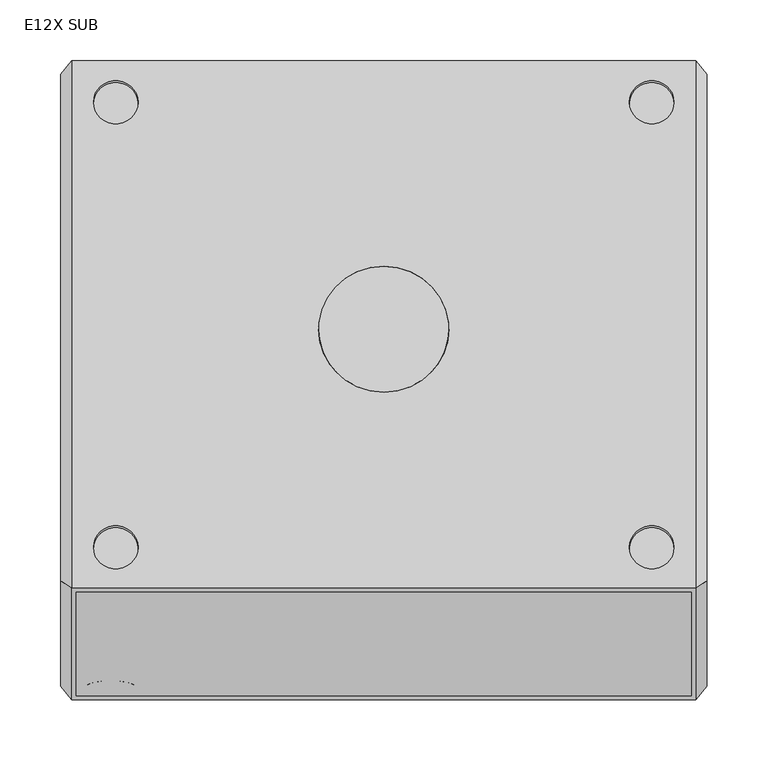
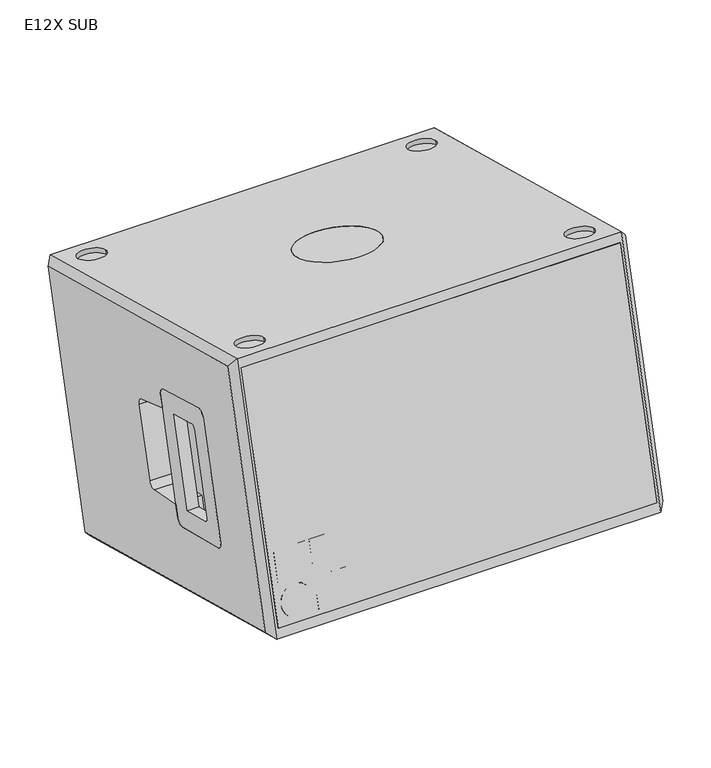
"""IFC4 building model written with IfcOpenShell, lengths in millimetres: proxy geometry, d&b E-Series E12X Subwoofer : E12X SUB."""

from ifc_helpers import new_model, si_unit, point, frame, frame_2d, origin, place, context, project, spatial, polyline, circle_curve, trimmed, segment, composite_curve, outline, extrude, faceted_brep, source, transform, mapped, element, save
from ifc_brep_helpers import plane_surface, revolved_surface, advanced_brep


def e12x_sub_99dfb99e(model_context):
    return source(origin(), model_context, "Body", "SolidModel", [
        extrude(outline(polyline([(0.0, -505.0), (0.0, 0.0), (15.0, 0.0), (15.0, -505.0), (0.0, -505.0)])), frame((-252.5, -258.684299, -99.9534065), z_axis=(0.0, 0.2588190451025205, 0.9659258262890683), x_axis=(0.0, 0.9659258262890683, -0.2588190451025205)), (0.0, 0.0, 1.0), 326.9692499),
        extrude(outline(composite_curve([segment(trimmed(circle_curve(frame_2d((0.0, -18.25)), 18.25), [point((0.0, -36.5))], [point((0.0, 0.0))], False, "CARTESIAN"), True, "CONTINUOUS"), segment(trimmed(circle_curve(frame_2d((0.0, -18.25)), 18.25), [point((0.0, 0.0))], [point((0.0, -36.5))], False, "CARTESIAN"), True, "CONTINUOUS")], self_intersect=False)), frame((-238.25, 135.454915, -224.7152999), z_axis=(0.0, 0.2588190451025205, 0.9659258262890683), x_axis=(0.0, 0.9659258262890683, -0.2588190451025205)), (0.0, 0.0, 1.0), 6.0),
        extrude(outline(composite_curve([segment(trimmed(circle_curve(frame_2d((0.0, -458.25)), 18.25), [point((0.0, -476.5))], [point((0.0, -440.0))], False, "CARTESIAN"), True, "CONTINUOUS"), segment(trimmed(circle_curve(frame_2d((0.0, -458.25)), 18.25), [point((0.0, -440.0))], [point((0.0, -476.5))], False, "CARTESIAN"), True, "CONTINUOUS")], self_intersect=False)), frame((-238.25, 135.454915, -224.7152999), z_axis=(0.0, 0.2588190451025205, 0.9659258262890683), x_axis=(0.0, 0.9659258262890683, -0.2588190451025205)), (0.0, 0.0, 1.0), 6.0),
        extrude(outline(composite_curve([segment(trimmed(circle_curve(frame_2d((-378.0, -18.25)), 18.25), [point((-378.0, -36.5))], [point((-378.0, 0.0))], False, "CARTESIAN"), True, "CONTINUOUS"), segment(trimmed(circle_curve(frame_2d((-378.0, -18.25)), 18.25), [point((-378.0, 0.0))], [point((-378.0, -36.5))], False, "CARTESIAN"), True, "CONTINUOUS")], self_intersect=False)), frame((-238.25, 135.454915, -224.7152999), z_axis=(0.0, 0.2588190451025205, 0.9659258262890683), x_axis=(0.0, 0.9659258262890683, -0.2588190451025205)), (0.0, 0.0, 1.0), 6.0),
        extrude(outline(composite_curve([segment(trimmed(circle_curve(frame_2d((-378.0, -458.25)), 18.25), [point((-378.0, -476.5))], [point((-378.0, -440.0))], False, "CARTESIAN"), True, "CONTINUOUS"), segment(trimmed(circle_curve(frame_2d((-378.0, -458.25)), 18.25), [point((-378.0, -440.0))], [point((-378.0, -476.5))], False, "CARTESIAN"), True, "CONTINUOUS")], self_intersect=False)), frame((-238.25, 135.454915, -224.7152999), z_axis=(0.0, 0.2588190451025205, 0.9659258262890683), x_axis=(0.0, 0.9659258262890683, -0.2588190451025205)), (0.0, 0.0, 1.0), 6.0),
        extrude(outline(polyline([(0.0, -41.5), (0.0, 0.0), (5.0000001, 0.0), (5.0000001, -41.5), (0.0, -41.5)])), frame((-244.9285714, -244.8374801, -48.2763748), z_axis=(0.0, 0.2588190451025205, 0.9659258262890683), x_axis=(0.0, 0.9659258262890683, -0.2588190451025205)), (0.0, 0.0, 1.0), 41.5),
        extrude(outline(polyline([(0.0, -41.5), (0.0, 0.0), (5.0000001, 0.0), (5.0000001, -41.5), (0.0, -41.5)])), frame((-197.5, -244.8374801, -48.2763748), z_axis=(0.0, 0.2588190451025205, 0.9659258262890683), x_axis=(0.0, 0.9659258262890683, -0.2588190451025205)), (0.0, 0.0, 1.0), 41.5),
        extrude(outline(polyline([(0.0, -41.5), (0.0, 0.0), (5.0, 0.0), (5.0, -41.5), (0.0, -41.5)])), frame((-197.5, -257.1128976, -94.0888568), z_axis=(0.0, 0.2588190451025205, 0.9659258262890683), x_axis=(0.0, 0.9659258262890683, -0.2588190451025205)), (0.0, 0.0, 1.0), 41.5),
        extrude(outline(composite_curve([segment(trimmed(circle_curve(frame_2d((17.5, -68.1785715)), 20.75), [point((-3.25, -68.1785715))], [point((38.25, -68.1785715))], False, "CARTESIAN"), True, "CONTINUOUS"), segment(trimmed(circle_curve(frame_2d((17.5, -68.1785715)), 20.75), [point((38.25, -68.1785715))], [point((-3.25, -68.1785715))], False, "CARTESIAN"), True, "CONTINUOUS")], self_intersect=False)), frame((-241.6785714, -229.2668605, -9.4845482), z_axis=(0.0, -0.9659258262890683, 0.2588190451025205), x_axis=(1.0, 0.0, 0.0)), (0.0, 0.0, 1.0), 5.0),
        advanced_brep(
        [(-265.0, -164.4512721, 216.9557077), (-265.0, 250.8968332, 105.6635183), (-265.0, 164.4512721, -216.9557077), (-265.0, -250.8968332, -105.6635183), (-265.0, -14.9698297, 93.4155769), (-265.0, -96.1612953, 116.8451239), (-265.0, -107.1668059, 110.4765742), (-265.0, -148.048673, -42.0966307), (-265.0, -141.6849683, -53.1431861), (-265.0, -59.749848, -73.4210995), (-265.0, -49.0108434, -66.9657863), (-265.0, -44.5065701, -50.1556096), (-265.0, 5.0056737, -60.3901946), (-265.0, 15.4084054, -53.8829808), (-265.0, 40.2856866, 38.9602968), (-265.0, 34.530732, 49.7961757), (-265.0, -13.4573824, 65.6862696), (-265.0, -8.9538545, 82.4936647), (-256.0, -261.919537, -112.0274793), (-256.0, -170.8152332, 227.9784115), (-256.0, 170.8152332, -227.9784115), (-256.0, 261.919537, 112.0274793), (-230.0, -14.9698297, 93.4155769), (-230.0, -8.9538545, 82.4936647), (-230.0, -13.4573824, 65.6862696), (-230.0, 34.530732, 49.7961756), (-230.0, 40.2856866, 38.9602968), (-230.0, 15.4084054, -53.8829808), (-230.0, 5.0056737, -60.3901943), (-230.0, -44.5065701, -50.1556096), (-230.0, -49.0108434, -66.9657863), (-230.0, -59.749848, -73.4210995), (-230.0, -141.6849683, -53.143186), (-230.0, -148.048673, -42.0966307), (-230.0, -107.1668059, 110.4765742), (-230.0, -96.1612953, 116.8451239), (256.0, 261.919537, 112.0274793), (256.0, -170.8152332, 227.9784115), (0.0, 93.5664126, 157.1375631), (0.0, -9.7065524, 184.8094706), (-238.25, 228.1121331, 121.0861459), (-201.75, 228.1121331, 121.0861459), (201.75, 228.1121331, 121.0861459), (238.25, 228.1121331, 121.0861459), (-238.25, -137.0078292, 218.919745), (-201.75, -137.0078292, 218.919745), (201.75, -137.0078292, 218.919745), (238.25, -137.0078292, 218.919745), (256.0, 170.8152332, -227.9784115), (256.0, -261.919537, -112.0274793), (124.0, 207.5675376, -90.8169442), (116.0, 209.6380899, -83.0895376), (64.0, 209.6380899, -83.0895376), (56.0, 207.5675376, -90.8169442), (56.0, 183.7561854, -179.6821202), (64.0, 181.685633, -187.4095268), (116.0, 181.685633, -187.4095268), (124.0, 183.7561854, -179.6821202), (-64.0, 209.6380899, -83.0895376), (-116.0, 209.6380899, -83.0895376), (-124.0, 207.5675376, -90.8169442), (-124.0, 183.7561854, -179.6821202), (-116.0, 181.685633, -187.4095268), (-64.0, 181.685633, -187.4095268), (-56.0, 183.7561854, -179.6821202), (-56.0, 207.5675376, -90.8169442), (-252.5, -174.0584299, 215.8746363), (252.5, -174.0584299, 215.8746363), (252.5, -258.684299, -99.9534065), (-252.5, -258.684299, -99.9534065), (252.5, -159.5695425, 211.9923507), (-252.5, -159.5695425, 211.9923507), (-252.5, -244.1954116, -103.8356922), (252.5, -244.1954116, -103.8356922), (0.0, -11.0006476, 179.9798415), (0.0, 92.2723174, 152.3079339), (-201.75, 226.5592188, 115.2905909), (-238.25, 226.5592188, 115.2905909), (238.25, 226.5592188, 115.2905909), (201.75, 226.5592188, 115.2905909), (-201.75, -138.5607435, 213.12419), (-238.25, -138.5607435, 213.12419), (238.25, -138.5607435, 213.12419), (201.75, -138.5607435, 213.12419), (116.0, 198.04698, -79.983709), (124.0, 195.9764276, -87.7111157), (124.0, 172.1650755, -176.5762917), (116.0, 170.0945231, -184.3036983), (64.0, 170.0945231, -184.3036983), (56.0, 172.1650755, -176.5762917), (56.0, 195.9764276, -87.7111157), (64.0, 198.04698, -79.983709), (-116.0, 198.04698, -79.983709), (-64.0, 198.04698, -79.983709), (-56.0, 195.9764276, -87.7111157), (-56.0, 172.1650755, -176.5762917), (-64.0, 170.0945231, -184.3036983), (-116.0, 170.0945231, -184.3036983), (-124.0, 172.1650755, -176.5762917), (-124.0, 195.9764276, -87.7111157)],
        [
            (0, 1),
            (1, 2),
            (2, 3),
            (3, 0),
            (4, 5, circle_curve(frame((-265.0, -610.235582, -1816.9926737), z_axis=(1.0, 0.0, 0.0), x_axis=(0.0, 0.9659258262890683, -0.2588190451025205)), 2001.0)),
            (5, 6, circle_curve(frame((-265.0, -98.4734735, 108.1472028), z_axis=(1.0, 0.0, 0.0), x_axis=(0.0, 0.9659258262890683, -0.2588190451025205)), 9.0)),
            (6, 7),
            (7, 8, circle_curve(frame((-265.0, -139.3330069, -44.4319864), z_axis=(1.0, 0.0, 0.0), x_axis=(0.0, 0.9659258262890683, -0.2588190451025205)), 9.0231215)),
            (8, 9, circle_curve(frame((-265.0, 379.8983479, 1878.69821), z_axis=(1.0, 0.0, 0.0), x_axis=(0.0, 0.9659258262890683, -0.2588190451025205)), 2001.0148263)),
            (9, 10, circle_curve(frame((-265.0, -57.7239032, -64.6311289), z_axis=(1.0, 0.0, 0.0), x_axis=(0.0, 0.9659258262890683, -0.2588190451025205)), 9.0204232)),
            (10, 11),
            (11, 12, circle_curve(frame((-265.0, 380.0134712, 1878.6803221), z_axis=(1.0, 0.0, 0.0), x_axis=(0.0, 0.9659258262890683, -0.2588190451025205)), 1975.0000802)),
            (12, 13, circle_curve(frame((-265.0, 6.7146526, -51.5534967), z_axis=(1.0, 0.0, 0.0), x_axis=(0.0, 0.9659258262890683, -0.2588190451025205)), 9.0004352)),
            (13, 14),
            (14, 15, circle_curve(frame((-265.0, 31.5926582, 41.2895867), z_axis=(1.0, 0.0, 0.0), x_axis=(0.0, 0.9659258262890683, -0.2588190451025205)), 8.9996852)),
            (15, 16, circle_curve(frame((-265.0, -610.2357588, -1816.9927178), z_axis=(1.0, 0.0, 0.0), x_axis=(0.0, 0.9659258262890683, -0.2588190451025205)), 1974.9998987)),
            (16, 17),
            (17, 4, circle_curve(frame((-265.0, -17.6471869, 84.8230361), z_axis=(1.0, 0.0, 0.0), x_axis=(0.0, 0.9659258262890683, -0.2588190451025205)), 9.0)),
            (3, 18),
            (18, 19),
            (19, 0),
            (2, 20),
            (20, 18),
            (1, 21),
            (21, 20),
            (19, 21),
            (22, 23, circle_curve(frame((-230.0, -17.6471869, 84.8230361), z_axis=(-1.0, 0.0, 0.0), x_axis=(0.0, 0.9659258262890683, -0.2588190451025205)), 9.0)),
            (23, 24),
            (24, 25, circle_curve(frame((-230.0, -610.2357588, -1816.9927178), z_axis=(-1.0, 0.0, 0.0), x_axis=(0.0, 0.9659258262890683, -0.2588190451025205)), 1974.9998987)),
            (25, 26, circle_curve(frame((-230.0, 31.5926582, 41.2895867), z_axis=(-1.0, 0.0, 0.0), x_axis=(0.0, 0.9659258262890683, -0.2588190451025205)), 8.9996852)),
            (26, 27),
            (27, 28, circle_curve(frame((-230.0, 6.7146526, -51.5534967), z_axis=(-1.0, 0.0, 0.0), x_axis=(0.0, 0.9659258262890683, -0.2588190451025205)), 9.0004352)),
            (28, 29, circle_curve(frame((-230.0, 380.0134712, 1878.6803221), z_axis=(-1.0, 0.0, 0.0), x_axis=(0.0, 0.9659258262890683, -0.2588190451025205)), 1975.0000802)),
            (29, 30),
            (30, 31, circle_curve(frame((-230.0, -57.7239032, -64.6311289), z_axis=(-1.0, 0.0, 0.0), x_axis=(0.0, 0.9659258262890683, -0.2588190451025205)), 9.0204232)),
            (31, 32, circle_curve(frame((-230.0, 379.8983479, 1878.69821), z_axis=(-1.0, 0.0, 0.0), x_axis=(0.0, 0.9659258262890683, -0.2588190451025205)), 2001.0148263)),
            (32, 33, circle_curve(frame((-230.0, -139.3330069, -44.4319864), z_axis=(-1.0, 0.0, 0.0), x_axis=(0.0, 0.9659258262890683, -0.2588190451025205)), 9.0231215)),
            (33, 34),
            (34, 35, circle_curve(frame((-230.0, -98.4734735, 108.1472028), z_axis=(-1.0, 0.0, 0.0), x_axis=(0.0, 0.9659258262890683, -0.2588190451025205)), 9.0)),
            (35, 22, circle_curve(frame((-230.0, -610.235582, -1816.9926737), z_axis=(-1.0, 0.0, 0.0), x_axis=(0.0, 0.9659258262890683, -0.2588190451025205)), 2001.0)),
            (35, 5),
            (4, 22),
            (34, 6),
            (33, 7),
            (32, 8),
            (31, 9),
            (30, 10),
            (29, 11),
            (28, 12),
            (27, 13),
            (26, 14),
            (25, 15),
            (24, 16),
            (23, 17),
            (36, 21),
            (19, 37),
            (37, 36),
            (38, 39, circle_curve(frame((0.0, 41.9299301, 170.9735168), z_axis=(0.0, -0.2588190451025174, -0.9659258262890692), x_axis=(0.0, 0.9659258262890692, -0.2588190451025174)), 53.4580204)),
            (39, 38, circle_curve(frame((0.0, 41.9299301, 170.9735168), z_axis=(0.0, -0.2588190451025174, -0.9659258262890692), x_axis=(0.0, 0.9659258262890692, -0.2588190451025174)), 53.4580204)),
            (40, 41, circle_curve(frame((-220.0, 228.1121331, 121.0861459), z_axis=(0.0, -0.2588190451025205, -0.9659258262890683), x_axis=(-1.0, 0.0, 0.0)), 18.25)),
            (41, 40, circle_curve(frame((-220.0, 228.1121331, 121.0861459), z_axis=(0.0, -0.2588190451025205, -0.9659258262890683), x_axis=(-1.0, 0.0, 0.0)), 18.25)),
            (42, 43, circle_curve(frame((220.0, 228.1121331, 121.0861459), z_axis=(0.0, -0.2588190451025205, -0.9659258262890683), x_axis=(-1.0, 0.0, 0.0)), 18.25)),
            (43, 42, circle_curve(frame((220.0, 228.1121331, 121.0861459), z_axis=(0.0, -0.2588190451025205, -0.9659258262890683), x_axis=(-1.0, 0.0, 0.0)), 18.25)),
            (44, 45, circle_curve(frame((-220.0, -137.0078292, 218.919745), z_axis=(0.0, -0.2588190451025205, -0.9659258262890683), x_axis=(-1.0, 0.0, 0.0)), 18.25)),
            (45, 44, circle_curve(frame((-220.0, -137.0078292, 218.919745), z_axis=(0.0, -0.2588190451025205, -0.9659258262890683), x_axis=(-1.0, 0.0, 0.0)), 18.25)),
            (46, 47, circle_curve(frame((220.0, -137.0078292, 218.919745), z_axis=(0.0, -0.2588190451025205, -0.9659258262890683), x_axis=(-1.0, 0.0, 0.0)), 18.25)),
            (47, 46, circle_curve(frame((220.0, -137.0078292, 218.919745), z_axis=(0.0, -0.2588190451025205, -0.9659258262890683), x_axis=(-1.0, 0.0, 0.0)), 18.25)),
            (48, 49),
            (49, 18),
            (20, 48),
            (36, 48),
            (50, 51, circle_curve(frame((116.0, 207.5675376, -90.8169442), z_axis=(0.0, -0.9659258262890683, 0.2588190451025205), x_axis=(-1.0, 0.0, 0.0)), 8.0)),
            (51, 52),
            (52, 53, circle_curve(frame((64.0, 207.5675376, -90.8169442), z_axis=(0.0, -0.9659258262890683, 0.2588190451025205), x_axis=(-1.0, 0.0, 0.0)), 8.0)),
            (53, 54),
            (54, 55, circle_curve(frame((64.0, 183.7561854, -179.6821202), z_axis=(0.0, -0.9659258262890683, 0.2588190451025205), x_axis=(-1.0, 0.0, 0.0)), 8.0)),
            (55, 56),
            (56, 57, circle_curve(frame((116.0, 183.7561854, -179.6821202), z_axis=(0.0, -0.9659258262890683, 0.2588190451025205), x_axis=(-1.0, 0.0, 0.0)), 8.0)),
            (57, 50),
            (58, 59),
            (59, 60, circle_curve(frame((-116.0, 207.5675376, -90.8169442), z_axis=(0.0, -0.9659258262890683, 0.2588190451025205), x_axis=(-1.0, 0.0, 0.0)), 8.0)),
            (60, 61),
            (61, 62, circle_curve(frame((-116.0, 183.7561854, -179.6821202), z_axis=(0.0, -0.9659258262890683, 0.2588190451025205), x_axis=(-1.0, 0.0, 0.0)), 8.0)),
            (62, 63),
            (63, 64, circle_curve(frame((-64.0, 183.7561854, -179.6821202), z_axis=(0.0, -0.9659258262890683, 0.2588190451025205), x_axis=(-1.0, 0.0, 0.0)), 8.0)),
            (64, 65),
            (65, 58, circle_curve(frame((-64.0, 207.5675376, -90.8169442), z_axis=(0.0, -0.9659258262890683, 0.2588190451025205), x_axis=(-1.0, 0.0, 0.0)), 8.0)),
            (49, 37),
            (66, 67),
            (67, 68),
            (68, 69),
            (69, 66),
            (70, 71),
            (71, 72),
            (72, 73),
            (73, 70),
            (70, 67),
            (66, 71),
            (69, 72),
            (68, 73),
            (74, 75, circle_curve(frame((0.0, 40.6358349, 166.1438877), z_axis=(0.0, 0.2588190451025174, 0.9659258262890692), x_axis=(0.0, 0.9659258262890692, -0.2588190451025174)), 53.4580204)),
            (75, 74, circle_curve(frame((0.0, 40.6358349, 166.1438877), z_axis=(0.0, 0.2588190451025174, 0.9659258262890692), x_axis=(0.0, 0.9659258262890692, -0.2588190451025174)), 53.4580204)),
            (74, 39),
            (38, 75),
            (76, 77, circle_curve(frame((-220.0, 226.5592188, 115.2905909), z_axis=(0.0, 0.2588190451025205, 0.9659258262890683), x_axis=(-1.0, 0.0, 0.0)), 18.25)),
            (77, 76, circle_curve(frame((-220.0, 226.5592188, 115.2905909), z_axis=(0.0, 0.2588190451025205, 0.9659258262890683), x_axis=(-1.0, 0.0, 0.0)), 18.25)),
            (78, 79, circle_curve(frame((220.0, 226.5592188, 115.2905909), z_axis=(0.0, 0.2588190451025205, 0.9659258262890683), x_axis=(-1.0, 0.0, 0.0)), 18.25)),
            (79, 78, circle_curve(frame((220.0, 226.5592188, 115.2905909), z_axis=(0.0, 0.2588190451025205, 0.9659258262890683), x_axis=(-1.0, 0.0, 0.0)), 18.25)),
            (80, 81, circle_curve(frame((-220.0, -138.5607435, 213.12419), z_axis=(0.0, 0.2588190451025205, 0.9659258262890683), x_axis=(-1.0, 0.0, 0.0)), 18.25)),
            (81, 80, circle_curve(frame((-220.0, -138.5607435, 213.12419), z_axis=(0.0, 0.2588190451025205, 0.9659258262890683), x_axis=(-1.0, 0.0, 0.0)), 18.25)),
            (82, 83, circle_curve(frame((220.0, -138.5607435, 213.12419), z_axis=(0.0, 0.2588190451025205, 0.9659258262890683), x_axis=(-1.0, 0.0, 0.0)), 18.25)),
            (83, 82, circle_curve(frame((220.0, -138.5607435, 213.12419), z_axis=(0.0, 0.2588190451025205, 0.9659258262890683), x_axis=(-1.0, 0.0, 0.0)), 18.25)),
            (76, 41),
            (40, 77),
            (78, 43),
            (42, 79),
            (80, 45),
            (44, 81),
            (82, 47),
            (46, 83),
            (84, 85, circle_curve(frame((116.0, 195.9764276, -87.7111157), z_axis=(0.0, 0.9659258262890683, -0.2588190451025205), x_axis=(-1.0, 0.0, 0.0)), 8.0)),
            (85, 86),
            (86, 87, circle_curve(frame((116.0, 172.1650755, -176.5762917), z_axis=(0.0, 0.9659258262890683, -0.2588190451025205), x_axis=(-1.0, 0.0, 0.0)), 8.0)),
            (87, 88),
            (88, 89, circle_curve(frame((64.0, 172.1650755, -176.5762917), z_axis=(0.0, 0.9659258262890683, -0.2588190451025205), x_axis=(-1.0, 0.0, 0.0)), 8.0)),
            (89, 90),
            (90, 91, circle_curve(frame((64.0, 195.9764276, -87.7111157), z_axis=(0.0, 0.9659258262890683, -0.2588190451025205), x_axis=(-1.0, 0.0, 0.0)), 8.0)),
            (91, 84),
            (92, 93),
            (93, 94, circle_curve(frame((-64.0, 195.9764276, -87.7111157), z_axis=(0.0, 0.9659258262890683, -0.2588190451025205), x_axis=(-1.0, 0.0, 0.0)), 8.0)),
            (94, 95),
            (95, 96, circle_curve(frame((-64.0, 172.1650755, -176.5762917), z_axis=(0.0, 0.9659258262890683, -0.2588190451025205), x_axis=(-1.0, 0.0, 0.0)), 8.0)),
            (96, 97),
            (97, 98, circle_curve(frame((-116.0, 172.1650755, -176.5762917), z_axis=(0.0, 0.9659258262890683, -0.2588190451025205), x_axis=(-1.0, 0.0, 0.0)), 8.0)),
            (98, 99),
            (99, 92, circle_curve(frame((-116.0, 195.9764276, -87.7111157), z_axis=(0.0, 0.9659258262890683, -0.2588190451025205), x_axis=(-1.0, 0.0, 0.0)), 8.0)),
            (84, 51),
            (50, 85),
            (57, 86),
            (56, 87),
            (55, 88),
            (54, 89),
            (53, 90),
            (52, 91),
            (92, 59),
            (58, 93),
            (65, 94),
            (64, 95),
            (63, 96),
            (62, 97),
            (61, 98),
            (60, 99),
        ],
        [
            plane_surface(frame((-265.0, 0.0, 0.0), z_axis=(-1.0000000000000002, 0.0, 0.0), x_axis=(0.0, 0.25881904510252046, 0.9659258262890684))),
            plane_surface(frame((-265.0, -207.6740527, 55.6460947), z_axis=(-0.7071067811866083, -0.6830127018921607, 0.18301270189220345), x_axis=(0.0, -0.2588190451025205, -0.9659258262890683))),
            plane_surface(frame((-265.0, -43.2227805, -161.309613), z_axis=(-0.7071067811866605, -0.1830127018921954, -0.6830127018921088), x_axis=(0.0, 0.9659258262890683, -0.2588190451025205))),
            plane_surface(frame((-265.0, 207.6740527, -55.6460947), z_axis=(-0.7071067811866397, 0.6830127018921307, -0.18301270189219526), x_axis=(0.0, 0.25881904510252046, 0.9659258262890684))),
            plane_surface(frame((-265.0, 43.2227805, 161.309613), z_axis=(-0.7071067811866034, 0.18301270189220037, 0.6830127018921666), x_axis=(0.0, -0.9659258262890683, 0.2588190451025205))),
            plane_surface(frame((-230.0, 1322.5819964, -2334.889583), z_axis=(-1.0, 0.0, 0.0), x_axis=(0.0, 0.2588190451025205, 0.9659258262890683))),
            revolved_surface(polyline([(-230.0, 1322.5819964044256, -2334.8895829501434), (-265.0, 1322.5819964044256, -2334.8895829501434)]), (-265.0, -610.235582, -1816.9926737), (1.0, 0.0, 0.0)),
            revolved_surface(polyline([(-230.0, -89.78014106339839, 105.81783139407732), (-265.0, -89.78014106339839, 105.81783139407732)]), (-265.0, -98.4734735, 108.1472028), (1.0, 0.0, 0.0)),
            plane_surface(frame((-230.0, -107.1668059, 110.4765742), z_axis=(0.0, 0.9659258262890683, -0.2588190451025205), x_axis=(-1.0, 0.0, 0.0))),
            revolved_surface(polyline([(-230.0, -130.61734080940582, -46.767342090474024), (-265.0, -130.61734080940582, -46.767342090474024)]), (-265.0, -139.3330069, -44.4319864), (1.0, 0.0, 0.0)),
            revolved_surface(polyline([(-230.0, 2312.730247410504, 1360.7974634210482), (-265.0, 2312.730247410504, 1360.7974634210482)]), (-265.0, 379.8983479, 1878.69821), (1.0, 0.0, 0.0)),
            revolved_surface(polyline([(-230.0, -49.01084346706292, -66.96578621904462), (-265.0, -49.01084346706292, -66.96578621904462)]), (-265.0, -57.7239032, -64.6311289), (1.0, 0.0, 0.0)),
            plane_surface(frame((-230.0, -49.0108434, -66.9657863), z_axis=(0.0, -0.9659258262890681, 0.25881904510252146), x_axis=(-1.0, 0.0, 0.0))),
            revolved_surface(polyline([(-230.0, 2287.717055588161, 1367.5126872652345), (-265.0, 2287.717055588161, 1367.5126872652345)]), (-265.0, 380.0134712, 1878.6803221), (1.0, 0.0, 0.0)),
            revolved_surface(polyline([(-230.0, 15.408405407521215, -53.88298074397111), (-265.0, 15.408405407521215, -53.88298074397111)]), (-265.0, 6.7146526, -51.5534967), (1.0, 0.0, 0.0)),
            plane_surface(frame((-230.0, 15.4084054, -53.8829808), z_axis=(0.0, -0.9659258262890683, 0.2588190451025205), x_axis=(-1.0, 0.0, 0.0))),
            revolved_surface(polyline([(-230.0, 40.2856865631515, 38.960296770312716), (-265.0, 40.2856865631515, 38.960296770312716)]), (-265.0, 31.5926582, 41.2895867), (1.0, 0.0, 0.0)),
            revolved_surface(polyline([(-230.0, 1297.4676502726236, -2328.160305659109), (-265.0, 1297.4676502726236, -2328.160305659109)]), (-265.0, -610.2357588, -1816.9927178), (1.0, 0.0, 0.0)),
            plane_surface(frame((-230.0, -13.4573824, 65.6862696), z_axis=(0.0, -0.9659258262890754, 0.25881904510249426), x_axis=(-1.0, 0.0, 0.0))),
            revolved_surface(polyline([(-230.0, -8.953854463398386, 82.49366469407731), (-265.0, -8.953854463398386, 82.49366469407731)]), (-265.0, -17.6471869, 84.8230361), (1.0, 0.0, 0.0)),
            plane_surface(frame((-256.0, 261.919537, 112.0274793), z_axis=(0.0, 0.2588190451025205, 0.9659258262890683), x_axis=(-1.0, 0.0, 0.0))),
            plane_surface(frame((-256.0, 170.8152332, -227.9784115), z_axis=(0.0, -0.2588190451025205, -0.9659258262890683), x_axis=(1.0, 0.0, 0.0))),
            plane_surface(frame((256.0, 261.919537, 112.0274793), z_axis=(0.0, 0.9659258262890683, -0.2588190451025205), x_axis=(0.0, -0.2588190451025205, -0.9659258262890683))),
            plane_surface(frame((-256.0, -170.8152332, 227.9784115), z_axis=(0.0, -0.9659258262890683, 0.2588190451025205), x_axis=(0.0, -0.2588190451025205, -0.9659258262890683))),
            plane_surface(frame((256.0, -170.8152332, 227.9784115), z_axis=(1.0, 0.0, 0.0), x_axis=(0.0, -0.2588190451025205, -0.9659258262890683))),
            plane_surface(frame((-252.5, -159.5695425, 211.9923507), z_axis=(0.0, -0.9659258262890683, 0.2588190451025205), x_axis=(1.0, 0.0, 0.0))),
            plane_surface(frame((252.5, -174.0584299, 215.8746363), z_axis=(0.0, -0.2588190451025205, -0.9659258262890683), x_axis=(0.0, 0.9659258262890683, -0.2588190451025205))),
            plane_surface(frame((-252.5, -174.0584299, 215.8746363), z_axis=(1.0, 0.0, 0.0), x_axis=(0.0, 0.9659258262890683, -0.2588190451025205))),
            plane_surface(frame((-252.5, -258.684299, -99.9534065), z_axis=(0.0, 0.2588190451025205, 0.9659258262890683), x_axis=(0.0, 0.9659258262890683, -0.2588190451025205))),
            plane_surface(frame((252.5, -258.684299, -99.9534065), z_axis=(-1.0, 0.0, 0.0), x_axis=(0.0, 0.9659258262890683, -0.2588190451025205))),
            plane_surface(frame((0.0, 92.2723174, 152.3079339), z_axis=(0.0, 0.2588190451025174, 0.9659258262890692), x_axis=(1.0, 0.0, 0.0))),
            revolved_surface(polyline([(0.0, 93.5664126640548, 157.13756308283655), (0.0, 92.27231742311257, 152.307933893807)]), (0.0, 40.6358349, 166.1438877), (0.0, 0.2588190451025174, 0.9659258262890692)),
            plane_surface(frame((-238.25, 226.5592188, 115.2905909), z_axis=(0.0, 0.2588190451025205, 0.9659258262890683), x_axis=(0.0, 0.9659258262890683, -0.2588190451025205))),
            revolved_surface(polyline([(-238.25, 228.11213308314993, 121.08614590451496), (-238.25, 226.5592188, 115.2905909)]), (-220.0, 226.5592188, 115.2905909), (0.0, 0.2588190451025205, 0.9659258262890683)),
            revolved_surface(polyline([(201.75, 228.11213307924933, 121.08614590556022), (201.75, 226.5592187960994, 115.29059090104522)]), (220.0, 356.2275604, 599.2194299), (0.0, 0.2588190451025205, 0.9659258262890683)),
            revolved_surface(polyline([(-238.25, -137.0078292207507, 218.91974500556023), (-238.25, -138.56074350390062, 213.12419000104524)]), (-220.0, -8.8924019, 697.053029), (0.0, 0.2588190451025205, 0.9659258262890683)),
            revolved_surface(polyline([(201.75, -137.0078292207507, 218.91974500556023), (201.75, -138.56074350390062, 213.12419000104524)]), (220.0, -8.8924019, 697.053029), (0.0, 0.2588190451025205, 0.9659258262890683)),
            plane_surface(frame((108.0, 195.9764276, -87.7111157), z_axis=(0.0, 0.9659258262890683, -0.2588190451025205), x_axis=(0.0, -0.2588190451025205, -0.9659258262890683))),
            revolved_surface(polyline([(108.0, 207.56753758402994, -90.81694425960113), (108.0, 195.9764276, -87.7111157)]), (116.0, 195.9764276, -87.7111157), (0.0, 0.9659258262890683, -0.2588190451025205)),
            plane_surface(frame((124.0, 207.5675376, -90.8169442), z_axis=(-1.0, 0.0, 0.0), x_axis=(0.0, -0.9659258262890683, 0.2588190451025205))),
            revolved_surface(polyline([(108.0, 183.75618539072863, -179.68212023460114), (108.0, 172.16507546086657, -176.57629168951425)]), (116.0, 172.1650755, -176.5762917), (0.0, 0.9659258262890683, -0.2588190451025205)),
            plane_surface(frame((116.0, 181.685633, -187.4095268), z_axis=(0.0, 0.2588190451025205, 0.9659258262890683), x_axis=(0.0, -0.9659258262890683, 0.2588190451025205))),
            revolved_surface(polyline([(56.0, 183.75618539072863, -179.68212023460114), (56.0, 172.16507546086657, -176.57629168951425)]), (64.0, 172.1650755, -176.5762917), (0.0, 0.9659258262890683, -0.2588190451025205)),
            plane_surface(frame((56.0, 183.7561854, -179.6821202), z_axis=(1.0, 0.0, 0.0), x_axis=(0.0, -0.9659258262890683, 0.2588190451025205))),
            revolved_surface(polyline([(56.0, 207.56753758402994, -90.81694425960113), (56.0, 195.9764276, -87.7111157)]), (64.0, 195.9764276, -87.7111157), (0.0, 0.9659258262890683, -0.2588190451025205)),
            plane_surface(frame((64.0, 209.6380899, -83.0895376), z_axis=(0.0, -0.2588190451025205, -0.9659258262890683), x_axis=(0.0, -0.9659258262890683, 0.2588190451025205))),
            plane_surface(frame((-116.0, 209.6380899, -83.0895376), z_axis=(0.0, -0.2588190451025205, -0.9659258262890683), x_axis=(0.0, -0.9659258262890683, 0.2588190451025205))),
            revolved_surface(polyline([(-72.0, 207.5675376, -90.8169442), (-72.0, 195.97642761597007, -87.71111564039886)]), (-64.0, 207.5675376, -90.8169442), (0.0, 0.9659258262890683, -0.2588190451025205)),
            plane_surface(frame((-56.0, 207.5675376, -90.8169442), z_axis=(-1.0, 0.0, 0.0), x_axis=(0.0, -0.9659258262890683, 0.2588190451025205))),
            revolved_surface(polyline([(-72.0, 183.7561854, -179.6821202), (-72.0, 172.16507547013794, -176.57629165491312)]), (-64.0, 183.7561854, -179.6821202), (0.0, 0.9659258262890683, -0.2588190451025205)),
            plane_surface(frame((-64.0, 181.685633, -187.4095268), z_axis=(0.0, 0.2588190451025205, 0.9659258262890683), x_axis=(0.0, -0.9659258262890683, 0.2588190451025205))),
            revolved_surface(polyline([(-124.0, 183.7561854, -179.6821202), (-124.0, 172.16507547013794, -176.57629165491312)]), (-116.0, 183.7561854, -179.6821202), (0.0, 0.9659258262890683, -0.2588190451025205)),
            plane_surface(frame((-124.0, 183.7561854, -179.6821202), z_axis=(1.0, 0.0, 0.0), x_axis=(0.0, -0.9659258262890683, 0.2588190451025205))),
            revolved_surface(polyline([(-124.0, 207.5675376, -90.8169442), (-124.0, 195.97642761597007, -87.71111564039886)]), (-116.0, 207.5675376, -90.8169442), (0.0, 0.9659258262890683, -0.2588190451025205)),
        ],
        [
            (0, [[1, 2, 3, 4], [5, 6, 7, 8, 9, 10, 11, 12, 13, 14, 15, 16, 17, 18]]),
            (1, [[-4, 19, 20, 21]]),
            (2, [[-3, 22, 23, -19]]),
            (3, [[-2, 24, 25, -22]]),
            (4, [[-1, -21, 26, -24]]),
            (5, [[27, 28, 29, 30, 31, 32, 33, 34, 35, 36, 37, 38, 39, 40]]),
            (6, [[-40, 41, -5, 42]]),
            (7, [[-39, 43, -6, -41]]),
            (8, [[-38, 44, -7, -43]]),
            (9, [[-37, 45, -8, -44]]),
            (10, [[-36, 46, -9, -45]]),
            (11, [[-35, 47, -10, -46]]),
            (12, [[-34, 48, -11, -47]]),
            (13, [[-33, 49, -12, -48]]),
            (14, [[-32, 50, -13, -49]]),
            (15, [[-31, 51, -14, -50]]),
            (16, [[-30, 52, -15, -51]]),
            (17, [[-29, 53, -16, -52]]),
            (18, [[-28, 54, -17, -53]]),
            (19, [[-27, -42, -18, -54]]),
            (20, [[55, -26, 56, 57], [58, 59], [60, 61], [62, 63], [64, 65], [66, 67]]),
            (21, [[68, 69, -23, 70]]),
            (22, [[-55, 71, -70, -25], [72, 73, 74, 75, 76, 77, 78, 79], [80, 81, 82, 83, 84, 85, 86, 87]]),
            (23, [[-56, -20, -69, 88], [89, 90, 91, 92]]),
            (24, [[-57, -88, -68, -71]]),
            (25, [[93, 94, 95, 96]]),
            (26, [[-93, 97, -89, 98]]),
            (27, [[-94, -98, -92, 99]]),
            (28, [[-95, -99, -91, 100]]),
            (29, [[-96, -100, -90, -97]]),
            (30, [[101, 102]]),
            (31, [[-101, 103, -58, 104]]),
            (31, [[-102, -104, -59, -103]]),
            (32, [[105, 106]]),
            (32, [[107, 108]]),
            (32, [[109, 110]]),
            (32, [[111, 112]]),
            (33, [[-105, 113, -60, 114]]),
            (33, [[-106, -114, -61, -113]]),
            (34, [[-107, 115, -62, 116]]),
            (34, [[-108, -116, -63, -115]]),
            (35, [[-109, 117, -64, 118]]),
            (35, [[-110, -118, -65, -117]]),
            (36, [[-111, 119, -66, 120]]),
            (36, [[-112, -120, -67, -119]]),
            (37, [[121, 122, 123, 124, 125, 126, 127, 128]]),
            (37, [[129, 130, 131, 132, 133, 134, 135, 136]]),
            (38, [[-121, 137, -72, 138]]),
            (39, [[-122, -138, -79, 139]]),
            (40, [[-123, -139, -78, 140]]),
            (41, [[-124, -140, -77, 141]]),
            (42, [[-125, -141, -76, 142]]),
            (43, [[-126, -142, -75, 143]]),
            (44, [[-127, -143, -74, 144]]),
            (45, [[-128, -144, -73, -137]]),
            (46, [[-129, 145, -80, 146]]),
            (47, [[-130, -146, -87, 147]]),
            (48, [[-131, -147, -86, 148]]),
            (49, [[-132, -148, -85, 149]]),
            (50, [[-133, -149, -84, 150]]),
            (51, [[-134, -150, -83, 151]]),
            (52, [[-135, -151, -82, 152]]),
            (53, [[-136, -152, -81, -145]]),
        ],
    ),
        extrude(outline(composite_curve([segment(trimmed(circle_curve(frame_2d((0.0, -53.4580204)), 53.4580204), [point((0.0, -106.9160408))], [point((0.0, 0.0))], False, "CARTESIAN"), True, "CONTINUOUS"), segment(trimmed(circle_curve(frame_2d((0.0, -53.4580204)), 53.4580204), [point((0.0, 0.0))], [point((0.0, -106.9160408))], False, "CARTESIAN"), True, "CONTINUOUS")], self_intersect=False)), frame((0.0, 92.2723174, 152.3079339), z_axis=(0.0, 0.2588190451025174, 0.9659258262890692), x_axis=(1.0, 0.0, 0.0)), (0.0, 0.0, 1.0), 5.0),
        faceted_brep([(256.0, -170.8152332, 227.9784115), (256.0, 261.919537, 112.0274793), (256.0, 170.8152332, -227.9784115), (256.0, -261.919537, -112.0274793), (265.0, -164.4512721, 216.9557077), (265.0, -250.8968332, -105.6635183), (265.0, 164.4512721, -216.9557077), (265.0, 250.8968332, 105.6635183)], [[[0, 1, 2, 3]], [[4, 5, 6, 7]], [[5, 4, 0, 3]], [[6, 5, 3, 2]], [[7, 6, 2, 1]], [[4, 7, 1, 0]]]),
        extrude(outline(composite_curve([segment(trimmed(circle_curve(frame_2d((-17.6471869, 84.8230361)), 9.0), [point((-14.9698297, 93.4155769))], [point((-8.8577886, 82.8874544))], False, "CARTESIAN"), True, "CONTINUOUS"), segment(polyline([(-8.8577886, 82.8874544), (-49.0108434, -66.9657863)]), True, "CONTINUOUS"), segment(trimmed(circle_curve(frame_2d((-57.7239032, -64.6311289)), 9.0204232), [point((-49.0108434, -66.9657863))], [point((-59.749848, -73.4210995))], False, "CARTESIAN"), True, "CONTINUOUS"), segment(trimmed(circle_curve(frame_2d((379.8983479, 1878.69821)), 2001.0148263), [point((-59.749848, -73.4210995))], [point((-141.6849683, -53.143186))], False, "CARTESIAN"), True, "CONTINUOUS"), segment(trimmed(circle_curve(frame_2d((-139.3330069, -44.4319864)), 9.0231215), [point((-141.6849683, -53.143186))], [point((-148.048673, -42.0966307))], False, "CARTESIAN"), True, "CONTINUOUS"), segment(polyline([(-148.048673, -42.0966307), (-107.1668059, 110.4765742)]), True, "CONTINUOUS"), segment(trimmed(circle_curve(frame_2d((-98.4734735, 108.1472028)), 9.0), [point((-107.1668059, 110.4765742))], [point((-96.1612953, 116.8451239))], False, "CARTESIAN"), True, "CONTINUOUS"), segment(trimmed(circle_curve(frame_2d((-610.235582, -1816.9926737)), 2001.0), [point((-96.1612953, 116.8451239))], [point((-14.9698297, 93.4155769))], False, "CARTESIAN"), True, "CONTINUOUS")], self_intersect=False), holes=[composite_curve([segment(trimmed(circle_curve(frame_2d((-81.6264901, 80.1626843)), 5.0), [point((-80.2844494, 84.9792107))], [point((-86.4561193, 81.4567795))], True, "CARTESIAN"), True, "CONTINUOUS"), segment(polyline([(-86.4561193, 81.4567795), (-115.6015854, -27.3155808)]), True, "CONTINUOUS"), segment(trimmed(circle_curve(frame_2d((-110.7719562, -28.609676)), 5.0), [point((-115.6015854, -27.3155808))], [point((-112.0179781, -33.4519306))], True, "CARTESIAN"), True, "CONTINUOUS"), segment(trimmed(circle_curve(frame_2d((380.0168206, 1878.6796049)), 1974.4227643), [point((-112.0179781, -33.4519306))], [point((-70.6960065, -43.611528))], True, "CARTESIAN"), True, "CONTINUOUS"), segment(polyline([(-70.6960065, -43.611528), (-39.4187735, 73.1166944)]), True, "CONTINUOUS"), segment(trimmed(circle_curve(frame_2d((-610.235582, -1816.9926737)), 1974.4227643), [point((-39.4187735, 73.1166944))], [point((-80.2844494, 84.9792107))], True, "CARTESIAN"), True, "CONTINUOUS")], self_intersect=False)]), frame((-265.0, 0.0, 0.0), z_axis=(1.0, 0.0, 0.0), x_axis=(0.0, 1.0, 0.0)), (0.0, 0.0, 1.0), 15.0),
        extrude(outline(composite_curve([segment(trimmed(circle_curve(frame_2d((0.0, -18.2853903)), 18.2853903), [point((0.0, -36.5707805))], [point((0.0, 0.0))], False, "CARTESIAN"), True, "CONTINUOUS"), segment(trimmed(circle_curve(frame_2d((0.0, -18.2853903)), 18.2853903), [point((0.0, 0.0))], [point((0.0, -36.5707805))], False, "CARTESIAN"), True, "CONTINUOUS")], self_intersect=False)), frame((71.8699807, 195.6504748, -108.2461047), z_axis=(0.0, -0.9659258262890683, 0.2588190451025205), x_axis=(0.0, 0.2588190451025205, 0.9659258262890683)), (0.0, 0.0, 1.0), 5.0),
        extrude(outline(composite_curve([segment(trimmed(circle_curve(frame_2d((-52.1607219, -18.2853903)), 18.2853903), [point((-52.1607219, -36.5707805))], [point((-52.1607219, 0.0))], False, "CARTESIAN"), True, "CONTINUOUS"), segment(trimmed(circle_curve(frame_2d((-52.1607219, -18.2853903)), 18.2853903), [point((-52.1607219, 0.0))], [point((-52.1607219, -36.5707805))], False, "CARTESIAN"), True, "CONTINUOUS")], self_intersect=False)), frame((71.8699807, 195.6504748, -108.2461047), z_axis=(0.0, -0.9659258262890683, 0.2588190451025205), x_axis=(0.0, 0.2588190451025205, 0.9659258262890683)), (0.0, 0.0, 1.0), 5.0),
        extrude(outline(composite_curve([segment(trimmed(circle_curve(frame_2d((0.0, -8.0)), 8.0), [point((8.0, -8.0))], [point((0.0, -16.0))], False, "CARTESIAN"), True, "CONTINUOUS"), segment(polyline([(0.0, -16.0), (-92.0, -16.0)]), True, "CONTINUOUS"), segment(trimmed(circle_curve(frame_2d((-92.0, -8.0)), 8.0), [point((-92.0, -16.0))], [point((-100.0, -8.0))], False, "CARTESIAN"), True, "CONTINUOUS"), segment(polyline([(-100.0, -8.0), (-100.0, 44.0)]), True, "CONTINUOUS"), segment(trimmed(circle_curve(frame_2d((-92.0, 44.0)), 8.0), [point((-100.0, 44.0))], [point((-92.0, 52.0))], False, "CARTESIAN"), True, "CONTINUOUS"), segment(polyline([(-92.0, 52.0), (0.0, 52.0)]), True, "CONTINUOUS"), segment(trimmed(circle_curve(frame_2d((0.0, 44.0)), 8.0), [point((0.0, 52.0))], [point((8.0, 44.0))], False, "CARTESIAN"), True, "CONTINUOUS"), segment(polyline([(8.0, 44.0), (8.0, -8.0)]), True, "CONTINUOUS")], self_intersect=False)), frame((-72.0, 207.5675376, -90.8169442), z_axis=(0.0, -0.9659258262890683, 0.2588190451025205), x_axis=(0.0, 0.2588190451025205, 0.9659258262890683)), (0.0, 0.0, 1.0), 12.0),
    ])


if __name__ == "__main__":
    model = new_model("IFC4")
    model_context = context("Model", 3, world=origin())
    ifc_project = project(units=[si_unit("LENGTHUNIT", "METRE", prefix="MILLI")], contexts=[model_context])
    site = spatial("IfcSite", under=ifc_project)
    building = spatial("IfcBuilding", under=site)
    placement = place(None, origin())
    e12x_sub_shape = e12x_sub_99dfb99e(model_context)
    element("IfcBuildingElementProxy", 1, Name="d&b E-Series E12X Subwoofer : E12X SUB", ObjectType="d&b E-Series E12X Subwoofer : E12X SUB", at=placement, inside=building, context=model_context, shape_type="MappedRepresentation", body=[
        mapped(e12x_sub_shape, transform((0.0, 0.0, 0.0), x_axis=(1.0, 0.0, 0.0), y_axis=(0.0, 1.0, 0.0), z_axis=(0.0, 0.0, 1.0))),
    ])
    save(model, "model.ifc")
